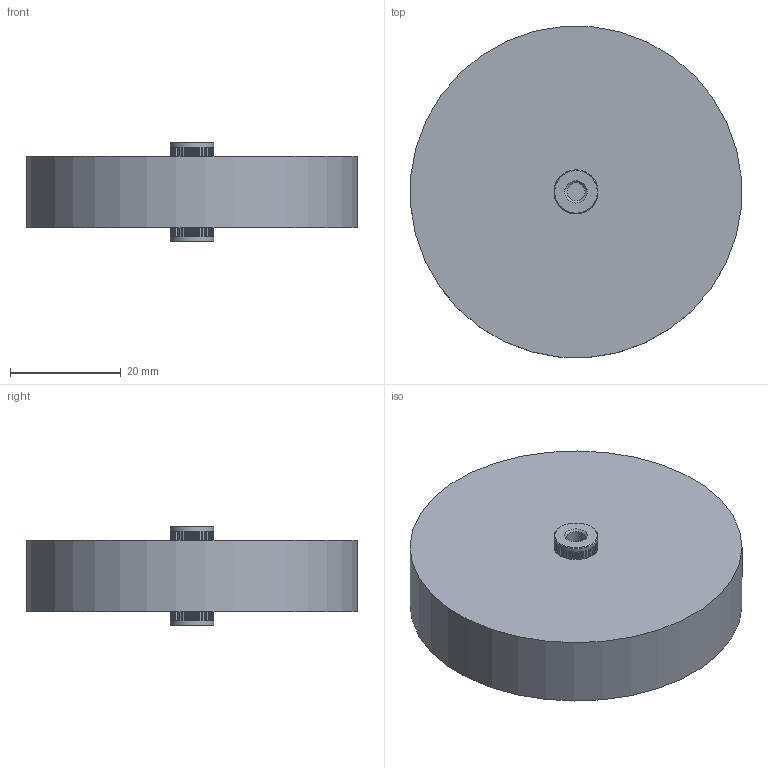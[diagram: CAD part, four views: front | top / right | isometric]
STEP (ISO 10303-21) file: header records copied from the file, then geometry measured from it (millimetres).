
FILE_DESCRIPTION((''),'2;1');
FILE_NAME('I:\Marketing\M6t1\M6T1 - Internal\Drawings\Werk 3\Finished product\Ceramite\Upload for homepage\Importierte Komponenten\715C10KTD80\715C10KTD80.ipt.stp','2013-06-10T09:19:05',('sherden'),(''),'Autodesk Inventor 2013','Autodesk Inventor 2013','');
FILE_SCHEMA(('AUTOMOTIVE_DESIGN { 1 2 10303 214 0 1 1 1 }'));
Length unit declared in the file: millimetre
Products named in the file (1): 715C10KTD80
Bounding box: 59.82 x 59.82 x 18 mm (x, y, z)
Volume: 36685.7 mm3; surface area: 8475.2 mm2
Topology: 1 solids, 1 shells, 575 faces, 1623 edges, 1054 vertices
Faces by surface type: plane 486, cylinder 85, cone 4
Full cylindrical faces by diameter (mm): 3.302 x2, 7.95 x2, 60 x1
Entity records: 18976 total; most frequent: CARTESIAN_POINT 3240, ORIENTED_EDGE 3224, DIRECTION 3096, EDGE_CURVE 1612, VECTOR 1280, LINE 1280, VERTEX_POINT 1052, AXIS2_PLACEMENT_3D 908
